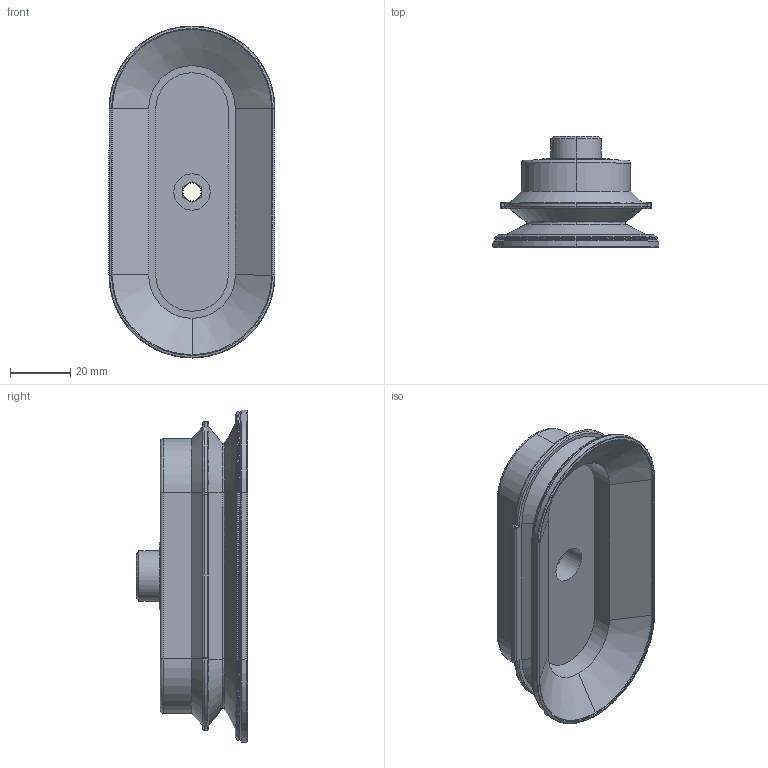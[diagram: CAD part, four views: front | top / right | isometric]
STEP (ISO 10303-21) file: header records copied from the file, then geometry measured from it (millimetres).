
FILE_DESCRIPTION (( 'STEP AP214' ), '1' );
FILE_NAME ('SAOB-110x55-G3-8AG.STEP', '2023-03-07T06:14:11', ( 'Windows User' ), ( 'P R C' ), 'SwSTEP 2.0', 'SolidWorks 2019', '' );
FILE_SCHEMA (( 'AUTOMOTIVE_DESIGN' ));
Length unit declared in the file: millimetre
Products named in the file (1): SAOB-110x55-G3-8AG
Bounding box: 55 x 37 x 110 mm (x, y, z)
Volume: 60357 mm3; surface area: 24249.1 mm2
Topology: 1 solids, 1 shells, 227 faces, 522 edges, 306 vertices
Faces by surface type: plane 88, cylinder 58, bspline 56, cone 25
Entity records: 11307 total; most frequent: CARTESIAN_POINT 3874, ORIENTED_EDGE 1034, DIRECTION 994, EDGE_CURVE 517, AXIS2_PLACEMENT_3D 356, VERTEX_POINT 306, LINE 282, VECTOR 282
